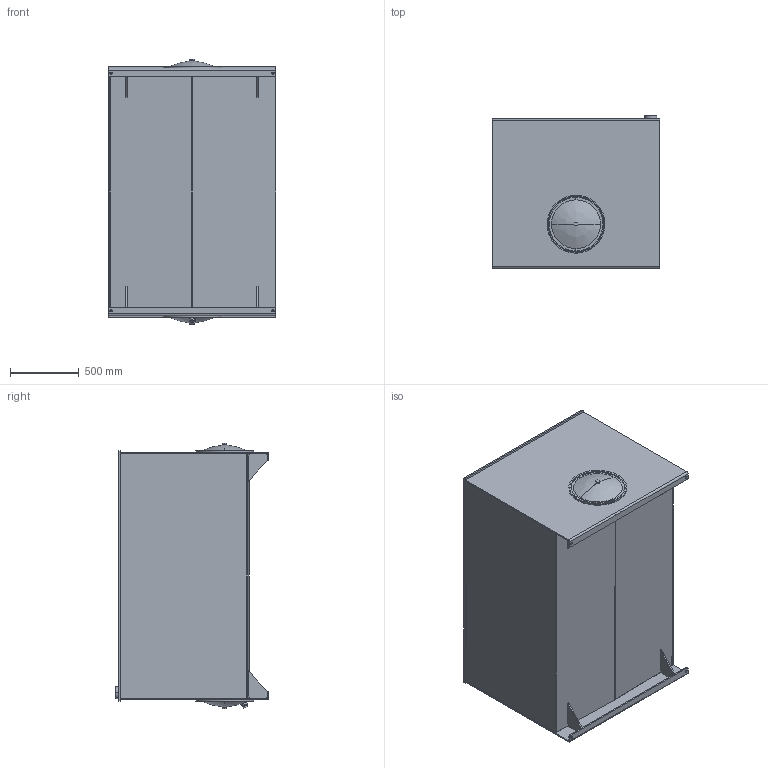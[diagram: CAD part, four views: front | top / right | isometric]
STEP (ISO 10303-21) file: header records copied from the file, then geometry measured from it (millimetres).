
FILE_DESCRIPTION (( 'STEP AP214' ), '1' );
FILE_NAME ('T1-500.STEP', '2022-05-26T17:32:49', ( '' ), ( '' ), 'SwSTEP 2.0', 'SolidWorks 2013', '' );
FILE_SCHEMA (( 'AUTOMOTIVE_DESIGN' ));
Length unit declared in the file: inch
Products named in the file (18): T1-500-EB; T1-500-BDYB; 16.00 GASKET; 0.625 - 11 BAFFLE NUT; T1-500-BFL; T1-500-GST; T1-500-LD; T1-500; T1-500-EA; 0.625 - 11 HEX BOLT; 16.00 END COVER; T1-500-BDYA; TL-EC-16; TL-ECD-16; FILLER RISER; DRAIN; 16.00 END COVER WITH DRAIN; CRUSH WASHER
Assembly tree (24 placements, depth 3):
  T1-500
    T1-500-LD
    T1-500-BDYA
    T1-500-BDYB
    T1-500-EA
    T1-500-EB
    T1-500-BFL
    T1-500-GST  x4
    FILLER RISER
    TL-EC-16
      16.00 END COVER
      16.00 GASKET
      CRUSH WASHER
      0.625 - 11 HEX BOLT
      0.625 - 11 BAFFLE NUT
    TL-ECD-16
      16.00 GASKET
      CRUSH WASHER
      0.625 - 11 HEX BOLT
      0.625 - 11 BAFFLE NUT
      16.00 END COVER WITH DRAIN
      DRAIN
Bounding box: 1219.3 x 1117.47 x 1938.01 mm (x, y, z)
Volume: 88642247.2 mm3; surface area: 24992433.1 mm2
Topology: 23 solids, 23 shells, 292 faces, 672 edges, 434 vertices
Faces by surface type: plane 165, cylinder 107, cone 10, bspline 8, torus 2
Entity records: 8559 total; most frequent: CARTESIAN_POINT 1464, DIRECTION 1232, ORIENTED_EDGE 1068, EDGE_CURVE 534, AXIS2_PLACEMENT_3D 460, VERTEX_POINT 342, VECTOR 312, LINE 312
